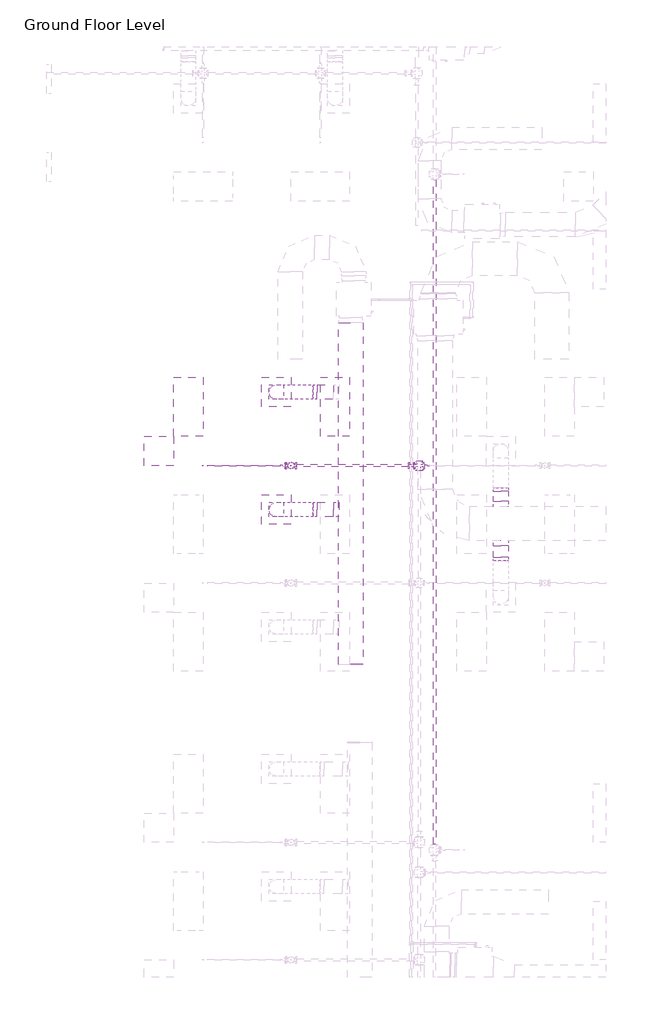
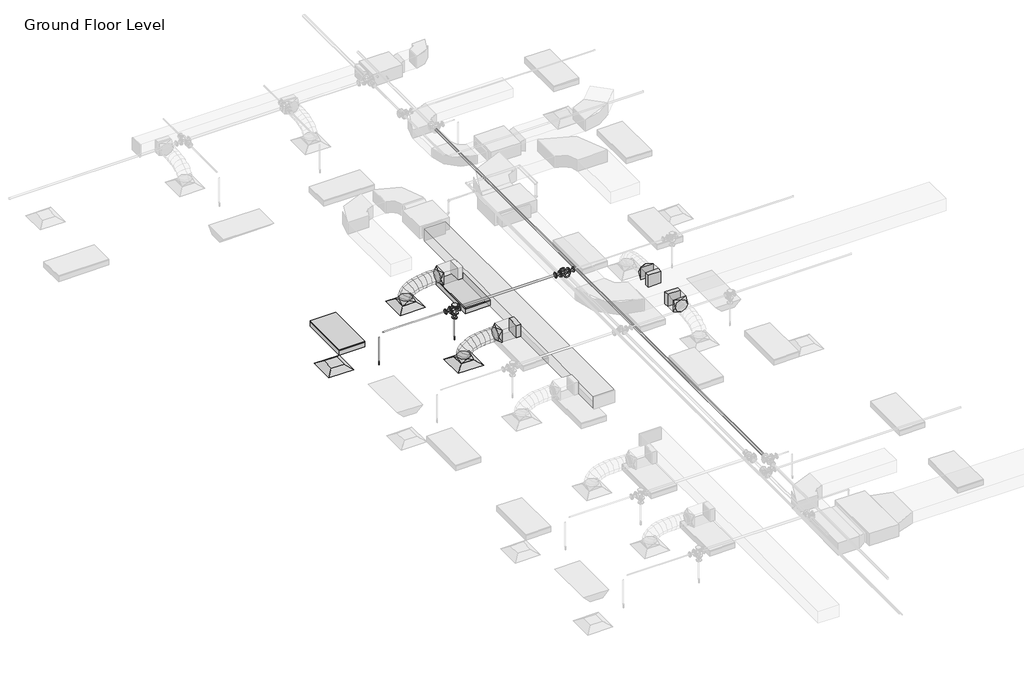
# One storey, part 30 of 68: 9 duct fittings, 7 duct segments, 6 pipe fittings, 5 pipe segments, 3 air terminals, 2 fire suppression terminals, 2 light fixtures.
"""IFC4 building model written with IfcOpenShell, lengths in millimetres."""

from ifc_helpers import new_model, si_unit, point, frame, frame_2d, origin, place, context, project, spatial, polyline, circle_curve, ellipse_curve, trimmed, segment, composite_curve, outline, extrude, transform, mapped, element, save
from ifc_brep_helpers import plane_surface, cylinder_surface, advanced_brep
from components import m_return_diffuser_600_x_600_face_300_x_300_connection_ff221211, m_rectangular_takeoff_standard_cb0ccb98, m_rectangular_takeoff_standard_2be5eba1, m_rectangular_to_round_transition_angle_45_degree_641efff0, m_sprinkler_dry_pendent_hosted_15_mm_dry_pendent_9bda8e11, m_troffer_light_parabolic_rectangular1_0600x1200mm_4_lamp_86473d4a, m_reducer_flanged_cs_class_150_standard_83138b42, m_reducer_flanged_cs_class_150_standard_dc68ad9d, m_reducer_flanged_cs_class_150_standard_678fb8eb, m_reducer_flanged_cs_class_150_standard_84a20e65, m_tee_round_base_flanged_cs_class_150_standard_9c9133d0, m_tee_round_base_flanged_cs_class_150_standard_ab36f383

model = new_model("IFC4")

# Units and contexts
model_context = context("Model", 3, world=origin())
ifc_project = project(units=[si_unit("LENGTHUNIT", "METRE", prefix="MILLI")], contexts=[model_context])

# Site, building, storey
site = spatial("IfcSite", under=ifc_project)
building = spatial("IfcBuilding", under=site)
storey = spatial("IfcBuildingStorey", under=building, Name="Ground Floor Level", Elevation=900.0)

# Air terminals
placement = place(None, origin())
m_return_diffuser_600_x_600_face_300_x_300_connection_shape = m_return_diffuser_600_x_600_face_300_x_300_connection_ff221211(model_context)
element("IfcAirTerminal", 1, ObjectType="M_Return Diffuser : 600 x 600 Face 300 x 300 Connection", at=placement, inside=storey, context=model_context, shape_type="MappedRepresentation", body=[
    mapped(m_return_diffuser_600_x_600_face_300_x_300_connection_shape, transform((362.7672395, -10664.7846466, 3650.0), x_axis=(1.0, 0.0, 0.0), y_axis=(0.0, 1.0, 0.0), z_axis=(0.0, 0.0, 1.0))),
])
element("IfcAirTerminal", 2, ObjectType="M_Supply Diffuser : 600 x 600 Face 300 x 300 Connection", at=placement, inside=storey, context=model_context, shape_type="MappedRepresentation", body=[
    mapped(m_return_diffuser_600_x_600_face_300_x_300_connection_shape, transform((2762.7672395, -9464.7846466, 3650.0), x_axis=(1.0, 0.0, 0.0), y_axis=(0.0, 1.0, 0.0), z_axis=(0.0, 0.0, 1.0))),
])
element("IfcAirTerminal", 3, ObjectType="M_Supply Diffuser : 600 x 600 Face 300 x 300 Connection", at=placement, inside=storey, context=model_context, shape_type="MappedRepresentation", body=[
    mapped(m_return_diffuser_600_x_600_face_300_x_300_connection_shape, transform((2762.7672395, -11864.7846466, 3650.0), x_axis=(1.0, 0.0, 0.0), y_axis=(0.0, 1.0, 0.0), z_axis=(0.0, 0.0, 1.0))),
])

# Duct fittings
m_rectangular_takeoff_standard_shape = m_rectangular_takeoff_standard_cb0ccb98(model_context)
element("IfcDuctFitting", 4, ObjectType="M_Rectangular Takeoff : Standard", at=placement, inside=storey, context=model_context, shape_type="MappedRepresentation", body=[
    mapped(m_rectangular_takeoff_standard_shape, transform((7352.7672395, -11799.3358641, 4099.9875), x_axis=(0.0, 1.0, 0.0), y_axis=(1.0, 0.0, 0.0), z_axis=(0.0, 0.0, -1.0))),
])
m_rectangular_takeoff_standard_2_shape = m_rectangular_takeoff_standard_2be5eba1(model_context)
element("IfcDuctFitting", 5, ObjectType="M_Rectangular Takeoff : Standard", at=placement, inside=storey, context=model_context, shape_type="MappedRepresentation", body=[
    mapped(m_rectangular_takeoff_standard_2_shape, transform((7352.7672395, -12499.3358641, 4099.9875), x_axis=(0.0, -1.0, 0.0), y_axis=(-1.0, 0.0, 0.0), z_axis=(0.0, 0.0, -1.0))),
])
element("IfcDuctFitting", 6, ObjectType="M_Rectangular Takeoff : Standard", at=placement, inside=storey, context=model_context, shape_type="MappedRepresentation", body=[
    mapped(m_rectangular_takeoff_standard_2_shape, transform((4032.1581888, -11864.7846466, 4099.9931113), x_axis=(-1.0, 0.0, 0.0), y_axis=(0.0, 1.0, 0.0), z_axis=(0.0, 0.0, -1.0))),
])
m_rectangular_to_round_transition_angle_45_degree_shape = m_rectangular_to_round_transition_angle_45_degree_641efff0(model_context)
element("IfcDuctFitting", 7, ObjectType="M_Rectangular to Round Transition - Angle : 45 Degree", at=placement, inside=storey, context=model_context, shape_type="MappedRepresentation", body=[
    mapped(m_rectangular_to_round_transition_angle_45_degree_shape, transform((2762.7672395, -9464.7846466, 3751.6), x_axis=(0.0, 0.0, 1.0), y_axis=(-1.0, 0.0, 0.0), z_axis=(0.0, -1.0, 0.0))),
])
element("IfcDuctFitting", 8, ObjectType="M_Rectangular to Round Transition - Angle : 45 Degree", at=placement, inside=storey, context=model_context, shape_type="MappedRepresentation", body=[
    mapped(m_rectangular_to_round_transition_angle_45_degree_shape, transform((3590.1057325, -9464.7846466, 4099.9974383), x_axis=(-1.0, 0.0, 0.0), y_axis=(0.0, -1.0, 0.0), z_axis=(0.0, 0.0, 1.0))),
])
element("IfcDuctFitting", 9, ObjectType="M_Rectangular to Round Transition - Angle : 45 Degree", at=placement, inside=storey, context=model_context, shape_type="MappedRepresentation", body=[
    mapped(m_rectangular_to_round_transition_angle_45_degree_shape, transform((2762.7672395, -11864.7846466, 3751.6), x_axis=(0.0, 0.0, 1.0), y_axis=(-1.0, 0.0, 0.0), z_axis=(0.0, -1.0, 0.0))),
])
element("IfcDuctFitting", 10, ObjectType="M_Rectangular to Round Transition - Angle : 45 Degree", at=placement, inside=storey, context=model_context, shape_type="MappedRepresentation", body=[
    mapped(m_rectangular_to_round_transition_angle_45_degree_shape, transform((3590.1100595, -11864.7846466, 4099.9931113), x_axis=(-1.0, 0.0, 0.0), y_axis=(0.0, -1.0, 0.0), z_axis=(0.0, 0.0, 1.0))),
])
element("IfcDuctFitting", 11, ObjectType="M_Rectangular to Round Transition - Angle : 45 Degree", at=placement, inside=storey, context=model_context, shape_type="MappedRepresentation", body=[
    mapped(m_rectangular_to_round_transition_angle_45_degree_shape, transform((7352.7672395, -11492.1330779, 4099.9875), x_axis=(0.0, 1.0, 0.0), y_axis=(-1.0, 0.0, 0.0), z_axis=(0.0, 0.0, 1.0))),
])
element("IfcDuctFitting", 12, ObjectType="M_Rectangular to Round Transition - Angle : 45 Degree", at=placement, inside=storey, context=model_context, shape_type="MappedRepresentation", body=[
    mapped(m_rectangular_to_round_transition_angle_45_degree_shape, transform((7352.7672395, -12837.4362153, 4099.9875), x_axis=(0.0, -1.0, 0.0), y_axis=(1.0, 0.0, 0.0), z_axis=(0.0, 0.0, 1.0))),
])

# Duct segments
element("IfcDuctSegment", 13, ObjectType="Flex - Round", at=placement, inside=storey, context=model_context, shape_type="AdvancedBrep", body=[
    advanced_brep(
    [(2912.7672395, -9464.7846466, 3826.6), (2762.7672395, -9614.7846466, 3826.6), (2612.7672395, -9464.7846466, 3826.6), (2762.7672395, -9314.7846466, 3826.6), (2912.7672395, -9464.7846466, 3832.2944653), (2762.7672395, -9614.7846466, 3857.937819), (2612.7672395, -9464.7846466, 3883.5811727), (2762.7672395, -9314.7846466, 3857.937819), (2913.5210607, -9464.7846466, 3834.4347571), (2779.7832431, -9614.7846466, 3906.2506195), (2646.0454255, -9464.7846466, 3978.066482), (2779.7832431, -9314.7846466, 3906.2506195), (2931.1727776, -9464.7846466, 3857.8014637), (2826.9673168, -9614.7846466, 3968.7111959), (2722.761856, -9464.7846466, 4079.620928), (2826.9673168, -9314.7846466, 3968.7111959), (2967.4569198, -9464.7846466, 3881.8155831), (2898.5235552, -9614.7846466, 4016.0696268), (2829.5901905, -9464.7846466, 4150.3236705), (2898.5235552, -9314.7846466, 4016.0696268), (3032.2160605, -9464.7846466, 3906.4914754), (2988.6560526, -9614.7846466, 4050.4138102), (2945.0960447, -9464.7846466, 4194.336145), (2988.6560526, -9314.7846466, 4050.4138102), (3118.1291117, -9464.7846466, 3926.0410022), (3091.5689036, -9614.7846466, 4073.8316439), (3065.0086955, -9464.7846466, 4221.6222855), (3091.5689036, -9314.7846466, 4073.8316439), (3216.6164827, -9464.7846466, 3939.1067008), (3201.4662026, -9614.7846466, 4088.4110257), (3186.3159225, -9464.7846466, 4237.7153505), (3201.4662026, -9314.7846466, 4088.4110257), (3320.0568882, -9464.7846466, 3946.3967129), (3312.5520441, -9614.7846466, 4096.2398535), (3305.0472001, -9464.7846466, 4246.0829941), (3312.5520441, -9314.7846466, 4096.2398535), (3421.7217312, -9464.7846466, 3949.4197495), (3419.0305226, -9614.7846466, 4099.4060251), (3416.339314, -9464.7846466, 4249.3923007), (3419.0305226, -9314.7846466, 4099.4060251), (3516.0290748, -9464.7846466, 3950.0002802), (3515.1057325, -9614.7846466, 4099.9974383), (3514.1823902, -9464.7846466, 4249.9945964), (3515.1057325, -9314.7846466, 4099.9974383)],
    [
        (0, 1, circle_curve(frame((2762.7672395, -9464.7846466, 3826.6), z_axis=(0.0, 0.0, -1.0), x_axis=(1.0, 0.0, 0.0)), 150.0)),
        (1, 2, circle_curve(frame((2762.7672395, -9464.7846466, 3826.6), z_axis=(0.0, 0.0, -1.0), x_axis=(1.0, 0.0, 0.0)), 150.0)),
        (2, 3, circle_curve(frame((2762.7672395, -9464.7846466, 3826.6), z_axis=(0.0, 0.0, -1.0), x_axis=(1.0, 0.0, 0.0)), 150.0)),
        (3, 0, circle_curve(frame((2762.7672395, -9464.7846466, 3826.6), z_axis=(0.0, 0.0, -1.0), x_axis=(1.0, 0.0, 0.0)), 150.0)),
        (0, 4),
        (4, 5, ellipse_curve(frame((2762.7672395, -9464.7846466, 3857.937819), z_axis=(-0.1685109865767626, 0.0, -0.9856997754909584), x_axis=(0.9856997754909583, 0.0, -0.16851098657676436)), 152.1761532, 150.0)),
        (5, 1),
        (5, 6, ellipse_curve(frame((2762.7672395, -9464.7846466, 3857.937819), z_axis=(-0.1685109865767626, 0.0, -0.9856997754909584), x_axis=(0.9856997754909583, 0.0, -0.16851098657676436)), 152.1761532, 150.0)),
        (6, 2),
        (6, 7, ellipse_curve(frame((2762.7672395, -9464.7846466, 3857.937819), z_axis=(-0.1685109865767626, 0.0, -0.9856997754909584), x_axis=(0.9856997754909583, 0.0, -0.16851098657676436)), 152.1761532, 150.0)),
        (7, 3),
        (7, 4, ellipse_curve(frame((2762.7672395, -9464.7846466, 3857.937819), z_axis=(-0.1685109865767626, 0.0, -0.9856997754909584), x_axis=(0.9856997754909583, 0.0, -0.16851098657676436)), 152.1761532, 150.0)),
        (4, 8),
        (8, 9, ellipse_curve(frame((2779.7832431, -9464.7846466, 3906.2506195), z_axis=(-0.47309443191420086, 0.0, -0.8810117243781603), x_axis=(0.8810117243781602, 0.0, -0.4730944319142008)), 151.80027, 150.0)),
        (9, 5),
        (9, 10, ellipse_curve(frame((2779.7832431, -9464.7846466, 3906.2506195), z_axis=(-0.47309443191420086, 0.0, -0.8810117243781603), x_axis=(0.8810117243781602, 0.0, -0.4730944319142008)), 151.80027, 150.0)),
        (10, 6),
        (10, 11, ellipse_curve(frame((2779.7832431, -9464.7846466, 3906.2506195), z_axis=(-0.47309443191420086, 0.0, -0.8810117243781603), x_axis=(0.8810117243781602, 0.0, -0.4730944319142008)), 151.80027, 150.0)),
        (11, 7),
        (11, 8, ellipse_curve(frame((2779.7832431, -9464.7846466, 3906.2506195), z_axis=(-0.47309443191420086, 0.0, -0.8810117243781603), x_axis=(0.8810117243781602, 0.0, -0.4730944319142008)), 151.80027, 150.0)),
        (8, 12),
        (12, 13, ellipse_curve(frame((2826.9673168, -9464.7846466, 3968.7111959), z_axis=(-0.7287905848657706, 0.0, -0.6847366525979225), x_axis=(0.6847366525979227, 0.0, -0.7287905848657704)), 152.1832669, 150.0)),
        (13, 9),
        (13, 14, ellipse_curve(frame((2826.9673168, -9464.7846466, 3968.7111959), z_axis=(-0.7287905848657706, 0.0, -0.6847366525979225), x_axis=(0.6847366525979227, 0.0, -0.7287905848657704)), 152.1832669, 150.0)),
        (14, 10),
        (14, 15, ellipse_curve(frame((2826.9673168, -9464.7846466, 3968.7111959), z_axis=(-0.7287905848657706, 0.0, -0.6847366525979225), x_axis=(0.6847366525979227, 0.0, -0.7287905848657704)), 152.1832669, 150.0)),
        (15, 11),
        (15, 12, ellipse_curve(frame((2826.9673168, -9464.7846466, 3968.7111959), z_axis=(-0.7287905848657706, 0.0, -0.6847366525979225), x_axis=(0.6847366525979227, 0.0, -0.7287905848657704)), 152.1832669, 150.0)),
        (12, 16),
        (16, 17, ellipse_curve(frame((2898.5235552, -9464.7846466, 4016.0696268), z_axis=(-0.8895882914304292, 0.0, -0.45676325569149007), x_axis=(0.45676325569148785, 0.0, -0.8895882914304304)), 150.9170535, 150.0)),
        (17, 13),
        (17, 18, ellipse_curve(frame((2898.5235552, -9464.7846466, 4016.0696268), z_axis=(-0.8895882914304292, 0.0, -0.45676325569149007), x_axis=(0.45676325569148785, 0.0, -0.8895882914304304)), 150.9170535, 150.0)),
        (18, 14),
        (18, 19, ellipse_curve(frame((2898.5235552, -9464.7846466, 4016.0696268), z_axis=(-0.8895882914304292, 0.0, -0.45676325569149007), x_axis=(0.45676325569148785, 0.0, -0.8895882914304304)), 150.9170535, 150.0)),
        (19, 15),
        (19, 16, ellipse_curve(frame((2898.5235552, -9464.7846466, 4016.0696268), z_axis=(-0.8895882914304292, 0.0, -0.45676325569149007), x_axis=(0.45676325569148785, 0.0, -0.8895882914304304)), 150.9170535, 150.0)),
        (16, 20),
        (20, 21, ellipse_curve(frame((2988.6560526, -9464.7846466, 4050.4138102), z_axis=(-0.9571218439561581, 0.0, -0.2896856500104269), x_axis=(0.28968565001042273, 0.0, -0.9571218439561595)), 150.3699197, 150.0)),
        (21, 17),
        (21, 22, ellipse_curve(frame((2988.6560526, -9464.7846466, 4050.4138102), z_axis=(-0.9571218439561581, 0.0, -0.2896856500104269), x_axis=(0.28968565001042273, 0.0, -0.9571218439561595)), 150.3699197, 150.0)),
        (22, 18),
        (22, 23, ellipse_curve(frame((2988.6560526, -9464.7846466, 4050.4138102), z_axis=(-0.9571218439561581, 0.0, -0.2896856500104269), x_axis=(0.28968565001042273, 0.0, -0.9571218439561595)), 150.3699197, 150.0)),
        (23, 19),
        (23, 20, ellipse_curve(frame((2988.6560526, -9464.7846466, 4050.4138102), z_axis=(-0.9571218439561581, 0.0, -0.2896856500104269), x_axis=(0.28968565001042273, 0.0, -0.9571218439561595)), 150.3699197, 150.0)),
        (20, 24),
        (24, 25, ellipse_curve(frame((3091.5689036, -9464.7846466, 4073.8316439), z_axis=(-0.9842321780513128, 0.0, -0.1768813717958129), x_axis=(0.17688137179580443, 0.0, -0.9842321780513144)), 150.1583111, 150.0)),
        (25, 21),
        (25, 26, ellipse_curve(frame((3091.5689036, -9464.7846466, 4073.8316439), z_axis=(-0.9842321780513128, 0.0, -0.1768813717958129), x_axis=(0.17688137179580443, 0.0, -0.9842321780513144)), 150.1583111, 150.0)),
        (26, 22),
        (26, 27, ellipse_curve(frame((3091.5689036, -9464.7846466, 4073.8316439), z_axis=(-0.9842321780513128, 0.0, -0.1768813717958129), x_axis=(0.17688137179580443, 0.0, -0.9842321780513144)), 150.1583111, 150.0)),
        (27, 23),
        (27, 24, ellipse_curve(frame((3091.5689036, -9464.7846466, 4073.8316439), z_axis=(-0.9842321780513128, 0.0, -0.1768813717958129), x_axis=(0.17688137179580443, 0.0, -0.9842321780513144)), 150.1583111, 150.0)),
        (24, 28),
        (28, 29, ellipse_curve(frame((3201.4662026, -9464.7846466, 4088.4110257), z_axis=(-0.994891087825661, 0.0, -0.10095406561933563), x_axis=(0.10095406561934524, 0.0, -0.99489108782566)), 150.0710245, 150.0)),
        (29, 25),
        (29, 30, ellipse_curve(frame((3201.4662026, -9464.7846466, 4088.4110257), z_axis=(-0.994891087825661, 0.0, -0.10095406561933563), x_axis=(0.10095406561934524, 0.0, -0.99489108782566)), 150.0710245, 150.0)),
        (30, 26),
        (30, 31, ellipse_curve(frame((3201.4662026, -9464.7846466, 4088.4110257), z_axis=(-0.994891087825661, 0.0, -0.10095406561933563), x_axis=(0.10095406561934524, 0.0, -0.99489108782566)), 150.0710245, 150.0)),
        (31, 27),
        (31, 28, ellipse_curve(frame((3201.4662026, -9464.7846466, 4088.4110257), z_axis=(-0.994891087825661, 0.0, -0.10095406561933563), x_axis=(0.10095406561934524, 0.0, -0.99489108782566)), 150.0710245, 150.0)),
        (28, 32),
        (32, 33, ellipse_curve(frame((3312.5520441, -9464.7846466, 4096.2398535), z_axis=(-0.9987481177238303, 0.0, -0.05002196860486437), x_axis=(0.05002196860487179, 0.0, -0.9987481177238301)), 150.0309617, 150.0)),
        (33, 29),
        (33, 34, ellipse_curve(frame((3312.5520441, -9464.7846466, 4096.2398535), z_axis=(-0.9987481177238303, 0.0, -0.05002196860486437), x_axis=(0.05002196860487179, 0.0, -0.9987481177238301)), 150.0309617, 150.0)),
        (34, 30),
        (34, 35, ellipse_curve(frame((3312.5520441, -9464.7846466, 4096.2398535), z_axis=(-0.9987481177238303, 0.0, -0.05002196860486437), x_axis=(0.05002196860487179, 0.0, -0.9987481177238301)), 150.0309617, 150.0)),
        (35, 31),
        (35, 32, ellipse_curve(frame((3312.5520441, -9464.7846466, 4096.2398535), z_axis=(-0.9987481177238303, 0.0, -0.05002196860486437), x_axis=(0.05002196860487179, 0.0, -0.9987481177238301)), 150.0309617, 150.0)),
        (32, 36),
        (36, 37, ellipse_curve(frame((3419.0305226, -9464.7846466, 4099.4060251), z_axis=(-0.9998390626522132, 0.0, -0.01794014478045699), x_axis=(0.017940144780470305, 0.0, -0.9998390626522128)), 150.0104179, 150.0)),
        (37, 33),
        (37, 38, ellipse_curve(frame((3419.0305226, -9464.7846466, 4099.4060251), z_axis=(-0.9998390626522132, 0.0, -0.01794014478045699), x_axis=(0.017940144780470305, 0.0, -0.9998390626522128)), 150.0104179, 150.0)),
        (38, 34),
        (38, 39, ellipse_curve(frame((3419.0305226, -9464.7846466, 4099.4060251), z_axis=(-0.9998390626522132, 0.0, -0.01794014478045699), x_axis=(0.017940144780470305, 0.0, -0.9998390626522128)), 150.0104179, 150.0)),
        (39, 35),
        (39, 36, ellipse_curve(frame((3419.0305226, -9464.7846466, 4099.4060251), z_axis=(-0.9998390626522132, 0.0, -0.01794014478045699), x_axis=(0.017940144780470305, 0.0, -0.9998390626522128)), 150.0104179, 150.0)),
        (36, 40),
        (40, 41, circle_curve(frame((3515.1057325, -9464.7846466, 4099.9974383), z_axis=(-0.9999810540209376, 0.0, -0.006155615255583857), x_axis=(0.006155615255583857, 0.0, -0.9999810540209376)), 150.0)),
        (41, 37),
        (41, 42, circle_curve(frame((3515.1057325, -9464.7846466, 4099.9974383), z_axis=(-0.9999810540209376, 0.0, -0.006155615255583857), x_axis=(0.006155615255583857, 0.0, -0.9999810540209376)), 150.0)),
        (42, 38),
        (42, 43, circle_curve(frame((3515.1057325, -9464.7846466, 4099.9974383), z_axis=(-0.9999810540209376, 0.0, -0.006155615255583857), x_axis=(0.006155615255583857, 0.0, -0.9999810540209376)), 150.0)),
        (43, 39),
        (43, 40, circle_curve(frame((3515.1057325, -9464.7846466, 4099.9974383), z_axis=(-0.9999810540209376, 0.0, -0.006155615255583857), x_axis=(0.006155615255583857, 0.0, -0.9999810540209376)), 150.0)),
    ],
    [
        plane_surface(frame((2762.7672395, -9614.7846466, 3826.6), z_axis=(0.0, 0.0, -1.0), x_axis=(1.0, 0.0, 0.0))),
        cylinder_surface(frame((2762.7672395, -9464.7846466, 3826.6), z_axis=(0.0, 0.0, -1.0), x_axis=(1.0, 0.0, 0.0)), 150.0),
        cylinder_surface(frame((2762.7672395, -9464.7846466, 3857.937819), z_axis=(-0.3322024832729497, 0.0, -0.9432080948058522), x_axis=(0.9432080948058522, 0.0, -0.3322024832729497)), 150.0),
        cylinder_surface(frame((2779.7832431, -9464.7846466, 3906.2506195), z_axis=(-0.6027650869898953, 0.0, -0.7979186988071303), x_axis=(0.7979186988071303, 0.0, -0.6027650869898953)), 150.0),
        cylinder_surface(frame((2826.9673168, -9464.7846466, 3968.7111959), z_axis=(-0.8339051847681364, 0.0, -0.5519077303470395), x_axis=(0.5519077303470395, 0.0, -0.8339051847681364)), 150.0),
        cylinder_surface(frame((2898.5235552, -9464.7846466, 4016.0696268), z_axis=(-0.9344601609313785, 0.0, -0.3560677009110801), x_axis=(0.3560677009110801, 0.0, -0.9344601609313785)), 150.0),
        cylinder_surface(frame((2988.6560526, -9464.7846466, 4050.4138102), z_axis=(-0.9750743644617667, 0.0, -0.22187830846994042), x_axis=(0.22187830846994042, 0.0, -0.9750743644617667)), 150.0),
        cylinder_surface(frame((3091.5689036, -9464.7846466, 4073.8316439), z_axis=(-0.9913146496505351, 0.0, -0.13151146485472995), x_axis=(0.13151146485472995, 0.0, -0.9913146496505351)), 150.0),
        cylinder_surface(frame((3201.4662026, -9464.7846466, 4088.4110257), z_axis=(-0.99752581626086, 0.0, -0.07030110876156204), x_axis=(0.07030110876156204, 0.0, -0.99752581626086)), 150.0),
        cylinder_surface(frame((3312.5520441, -9464.7846466, 4096.2398535), z_axis=(-0.9995581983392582, 0.0, -0.029722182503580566), x_axis=(0.029722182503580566, 0.0, -0.9995581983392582)), 150.0),
        cylinder_surface(frame((3419.0305226, -9464.7846466, 4099.4060251), z_axis=(-0.9999810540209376, 0.0, -0.006155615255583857), x_axis=(0.006155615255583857, 0.0, -0.9999810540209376)), 150.0),
        plane_surface(frame((3515.1057325, -9614.7846466, 4099.9974383), z_axis=(0.9999810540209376, 0.0, 0.006155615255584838), x_axis=(0.006155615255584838, 0.0, -0.9999810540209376))),
    ],
    [
        (0, [[1, 2, 3, 4]]),
        (1, [[-1, 5, 6, 7]]),
        (1, [[-2, -7, 8, 9]]),
        (1, [[-3, -9, 10, 11]]),
        (1, [[-4, -11, 12, -5]]),
        (2, [[-6, 13, 14, 15]]),
        (2, [[-8, -15, 16, 17]]),
        (2, [[-10, -17, 18, 19]]),
        (2, [[-12, -19, 20, -13]]),
        (3, [[-14, 21, 22, 23]]),
        (3, [[-16, -23, 24, 25]]),
        (3, [[-18, -25, 26, 27]]),
        (3, [[-20, -27, 28, -21]]),
        (4, [[-22, 29, 30, 31]]),
        (4, [[-24, -31, 32, 33]]),
        (4, [[-26, -33, 34, 35]]),
        (4, [[-28, -35, 36, -29]]),
        (5, [[-30, 37, 38, 39]]),
        (5, [[-32, -39, 40, 41]]),
        (5, [[-34, -41, 42, 43]]),
        (5, [[-36, -43, 44, -37]]),
        (6, [[-38, 45, 46, 47]]),
        (6, [[-40, -47, 48, 49]]),
        (6, [[-42, -49, 50, 51]]),
        (6, [[-44, -51, 52, -45]]),
        (7, [[-46, 53, 54, 55]]),
        (7, [[-48, -55, 56, 57]]),
        (7, [[-50, -57, 58, 59]]),
        (7, [[-52, -59, 60, -53]]),
        (8, [[-54, 61, 62, 63]]),
        (8, [[-56, -63, 64, 65]]),
        (8, [[-58, -65, 66, 67]]),
        (8, [[-60, -67, 68, -61]]),
        (9, [[-62, 69, 70, 71]]),
        (9, [[-64, -71, 72, 73]]),
        (9, [[-66, -73, 74, 75]]),
        (9, [[-68, -75, 76, -69]]),
        (10, [[-70, 77, 78, 79]]),
        (10, [[-72, -79, 80, 81]]),
        (10, [[-74, -81, 82, 83]]),
        (10, [[-76, -83, 84, -77]]),
        (11, [[-84, -82, -80, -78]]),
    ],
),
])
element("IfcDuctSegment", 14, ObjectType="Flex - Round", at=placement, inside=storey, context=model_context, shape_type="AdvancedBrep", body=[
    advanced_brep(
    [(2912.7672395, -11864.7846466, 3826.6), (2762.7672395, -12014.7846466, 3826.6), (2612.7672395, -11864.7846466, 3826.6), (2762.7672395, -11714.7846466, 3826.6), (2912.7672395, -11864.7846466, 3832.2944249), (2762.7672395, -12014.7846466, 3857.9380006), (2612.7672395, -11864.7846466, 3883.5815763), (2762.7672395, -11714.7846466, 3857.9380006), (2913.5209081, -11864.7846466, 3834.434264), (2779.783363, -12014.7846466, 3906.2506984), (2646.045818, -11864.7846466, 3978.0671329), (2779.783363, -11714.7846466, 3906.2506984), (2931.1724836, -11864.7846466, 3857.8005181), (2826.9677634, -12014.7846466, 3968.7109978), (2722.7630433, -11864.7846466, 4079.6214776), (2826.9677634, -11714.7846466, 3968.7109978), (2967.4566828, -11864.7846466, 3881.8142389), (2898.5244852, -12014.7846466, 4016.0688885), (2829.5922876, -11864.7846466, 4150.3235382), (2898.5244852, -11714.7846466, 4016.0688885), (3032.2163051, -11864.7846466, 3906.4896423), (2988.6575729, -12014.7846466, 4050.4123609), (2945.0988407, -11864.7846466, 4194.3350795), (2988.6575729, -11714.7846466, 4050.4123609), (3118.1300698, -11864.7846466, 3926.0385497), (3091.5710711, -12014.7846466, 4073.8294054), (3065.0120723, -11864.7846466, 4221.620261), (3091.5710711, -11714.7846466, 4073.8294054), (3216.6182532, -11864.7846466, 3939.1035838), (3201.4690243, -12014.7846466, 4088.4080122), (3186.3197953, -11864.7846466, 4237.7124407), (3201.4690243, -11714.7846466, 4088.4080122), (3320.0595033, -11864.7846466, 3946.3929932), (3312.555477, -12014.7846466, 4096.2361719), (3305.0514507, -11864.7846466, 4246.0793507), (3312.555477, -11714.7846466, 4096.2361719), (3421.725202, -11864.7846466, 3949.415593), (3419.0344739, -12014.7846466, 4099.4018748), (3416.3437458, -11864.7846466, 4249.3881567), (3419.0344739, -11714.7846466, 4099.4018748), (3516.0331222, -11864.7846466, 3949.9959514), (3515.1100595, -12014.7846466, 4099.9931113), (3514.1869969, -11864.7846466, 4249.9902711), (3515.1100595, -11714.7846466, 4099.9931113)],
    [
        (0, 1, circle_curve(frame((2762.7672395, -11864.7846466, 3826.6), z_axis=(0.0, 0.0, -1.0), x_axis=(1.0, 0.0, 0.0)), 150.0)),
        (1, 2, circle_curve(frame((2762.7672395, -11864.7846466, 3826.6), z_axis=(0.0, 0.0, -1.0), x_axis=(1.0, 0.0, 0.0)), 150.0)),
        (2, 3, circle_curve(frame((2762.7672395, -11864.7846466, 3826.6), z_axis=(0.0, 0.0, -1.0), x_axis=(1.0, 0.0, 0.0)), 150.0)),
        (3, 0, circle_curve(frame((2762.7672395, -11864.7846466, 3826.6), z_axis=(0.0, 0.0, -1.0), x_axis=(1.0, 0.0, 0.0)), 150.0)),
        (0, 4),
        (4, 5, ellipse_curve(frame((2762.7672395, -11864.7846466, 3857.9380006), z_axis=(-0.1685124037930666, 0.0, -0.985699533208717), x_axis=(0.985699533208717, 0.0, -0.16851240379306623)), 152.1761906, 150.0)),
        (5, 1),
        (5, 6, ellipse_curve(frame((2762.7672395, -11864.7846466, 3857.9380006), z_axis=(-0.1685124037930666, 0.0, -0.985699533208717), x_axis=(0.985699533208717, 0.0, -0.16851240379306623)), 152.1761906, 150.0)),
        (6, 2),
        (6, 7, ellipse_curve(frame((2762.7672395, -11864.7846466, 3857.9380006), z_axis=(-0.1685124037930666, 0.0, -0.985699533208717), x_axis=(0.985699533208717, 0.0, -0.16851240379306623)), 152.1761906, 150.0)),
        (7, 3),
        (7, 4, ellipse_curve(frame((2762.7672395, -11864.7846466, 3857.9380006), z_axis=(-0.1685124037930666, 0.0, -0.985699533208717), x_axis=(0.985699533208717, 0.0, -0.16851240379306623)), 152.1761906, 150.0)),
        (4, 8),
        (8, 9, ellipse_curve(frame((2779.783363, -11864.7846466, 3906.2506984), z_axis=(-0.47309810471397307, 0.0, -0.8810097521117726), x_axis=(0.8810097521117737, 0.0, -0.47309810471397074)), 151.8003005, 150.0)),
        (9, 5),
        (9, 10, ellipse_curve(frame((2779.783363, -11864.7846466, 3906.2506984), z_axis=(-0.47309810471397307, 0.0, -0.8810097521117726), x_axis=(0.8810097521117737, 0.0, -0.47309810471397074)), 151.8003005, 150.0)),
        (10, 6),
        (10, 11, ellipse_curve(frame((2779.783363, -11864.7846466, 3906.2506984), z_axis=(-0.47309810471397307, 0.0, -0.8810097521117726), x_axis=(0.8810097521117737, 0.0, -0.47309810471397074)), 151.8003005, 150.0)),
        (11, 7),
        (11, 8, ellipse_curve(frame((2779.783363, -11864.7846466, 3906.2506984), z_axis=(-0.47309810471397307, 0.0, -0.8810097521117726), x_axis=(0.8810097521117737, 0.0, -0.47309810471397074)), 151.8003005, 150.0)),
        (8, 12),
        (12, 13, ellipse_curve(frame((2826.9677634, -11864.7846466, 3968.7109978), z_axis=(-0.7287953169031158, 0.0, -0.684731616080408), x_axis=(0.6847316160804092, 0.0, -0.7287953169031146)), 152.1833047, 150.0)),
        (13, 9),
        (13, 14, ellipse_curve(frame((2826.9677634, -11864.7846466, 3968.7109978), z_axis=(-0.7287953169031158, 0.0, -0.684731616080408), x_axis=(0.6847316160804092, 0.0, -0.7287953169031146)), 152.1833047, 150.0)),
        (14, 10),
        (14, 15, ellipse_curve(frame((2826.9677634, -11864.7846466, 3968.7109978), z_axis=(-0.7287953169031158, 0.0, -0.684731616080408), x_axis=(0.6847316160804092, 0.0, -0.7287953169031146)), 152.1833047, 150.0)),
        (15, 11),
        (15, 12, ellipse_curve(frame((2826.9677634, -11864.7846466, 3968.7109978), z_axis=(-0.7287953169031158, 0.0, -0.684731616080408), x_axis=(0.6847316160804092, 0.0, -0.7287953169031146)), 152.1833047, 150.0)),
        (12, 16),
        (16, 17, ellipse_curve(frame((2898.5244852, -11864.7846466, 4016.0688885), z_axis=(-0.8895922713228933, 0.0, -0.45675550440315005), x_axis=(0.4567555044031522, 0.0, -0.8895922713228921)), 150.9170594, 150.0)),
        (17, 13),
        (17, 18, ellipse_curve(frame((2898.5244852, -11864.7846466, 4016.0688885), z_axis=(-0.8895922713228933, 0.0, -0.45675550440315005), x_axis=(0.4567555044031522, 0.0, -0.8895922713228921)), 150.9170594, 150.0)),
        (18, 14),
        (18, 19, ellipse_curve(frame((2898.5244852, -11864.7846466, 4016.0688885), z_axis=(-0.8895922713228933, 0.0, -0.45675550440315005), x_axis=(0.4567555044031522, 0.0, -0.8895922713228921)), 150.9170594, 150.0)),
        (19, 15),
        (19, 16, ellipse_curve(frame((2898.5244852, -11864.7846466, 4016.0688885), z_axis=(-0.8895922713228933, 0.0, -0.45675550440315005), x_axis=(0.4567555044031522, 0.0, -0.8895922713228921)), 150.9170594, 150.0)),
        (16, 20),
        (20, 21, ellipse_curve(frame((2988.6575729, -11864.7846466, 4050.4123609), z_axis=(-0.957124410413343, 0.0, -0.289677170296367), x_axis=(0.28967717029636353, 0.0, -0.9571244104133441)), 150.3699175, 150.0)),
        (21, 17),
        (21, 22, ellipse_curve(frame((2988.6575729, -11864.7846466, 4050.4123609), z_axis=(-0.957124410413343, 0.0, -0.289677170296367), x_axis=(0.28967717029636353, 0.0, -0.9571244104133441)), 150.3699175, 150.0)),
        (22, 18),
        (22, 23, ellipse_curve(frame((2988.6575729, -11864.7846466, 4050.4123609), z_axis=(-0.957124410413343, 0.0, -0.289677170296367), x_axis=(0.28967717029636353, 0.0, -0.9571244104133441)), 150.3699175, 150.0)),
        (23, 19),
        (23, 20, ellipse_curve(frame((2988.6575729, -11864.7846466, 4050.4123609), z_axis=(-0.957124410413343, 0.0, -0.289677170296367), x_axis=(0.28967717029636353, 0.0, -0.9571244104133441)), 150.3699175, 150.0)),
        (20, 24),
        (24, 25, ellipse_curve(frame((3091.5710711, -11864.7846466, 4073.8294054), z_axis=(-0.9842336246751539, 0.0, -0.1768733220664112), x_axis=(0.17687332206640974, 0.0, -0.9842336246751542)), 150.1583079, 150.0)),
        (25, 21),
        (25, 26, ellipse_curve(frame((3091.5710711, -11864.7846466, 4073.8294054), z_axis=(-0.9842336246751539, 0.0, -0.1768733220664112), x_axis=(0.17687332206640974, 0.0, -0.9842336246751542)), 150.1583079, 150.0)),
        (26, 22),
        (26, 27, ellipse_curve(frame((3091.5710711, -11864.7846466, 4073.8294054), z_axis=(-0.9842336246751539, 0.0, -0.1768733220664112), x_axis=(0.17687332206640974, 0.0, -0.9842336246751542)), 150.1583079, 150.0)),
        (27, 23),
        (27, 24, ellipse_curve(frame((3091.5710711, -11864.7846466, 4073.8294054), z_axis=(-0.9842336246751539, 0.0, -0.1768733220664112), x_axis=(0.17687332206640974, 0.0, -0.9842336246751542)), 150.1583079, 150.0)),
        (24, 28),
        (28, 29, ellipse_curve(frame((3201.4690243, -11864.7846466, 4088.4080122), z_axis=(-0.9948917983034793, 0.0, -0.10094706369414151), x_axis=(0.10094706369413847, 0.0, -0.9948917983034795)), 150.0710214, 150.0)),
        (29, 25),
        (29, 30, ellipse_curve(frame((3201.4690243, -11864.7846466, 4088.4080122), z_axis=(-0.9948917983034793, 0.0, -0.10094706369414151), x_axis=(0.10094706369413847, 0.0, -0.9948917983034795)), 150.0710214, 150.0)),
        (30, 26),
        (30, 31, ellipse_curve(frame((3201.4690243, -11864.7846466, 4088.4080122), z_axis=(-0.9948917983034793, 0.0, -0.10094706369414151), x_axis=(0.10094706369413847, 0.0, -0.9948917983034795)), 150.0710214, 150.0)),
        (31, 27),
        (31, 28, ellipse_curve(frame((3201.4690243, -11864.7846466, 4088.4080122), z_axis=(-0.9948917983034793, 0.0, -0.10094706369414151), x_axis=(0.10094706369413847, 0.0, -0.9948917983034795)), 150.0710214, 150.0)),
        (28, 32),
        (32, 33, ellipse_curve(frame((3312.555477, -11864.7846466, 4096.2361719), z_axis=(-0.99874839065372, 0.0, -0.050016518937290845), x_axis=(0.050016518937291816, 0.0, -0.99874839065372)), 150.0309589, 150.0)),
        (33, 29),
        (33, 34, ellipse_curve(frame((3312.555477, -11864.7846466, 4096.2361719), z_axis=(-0.99874839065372, 0.0, -0.050016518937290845), x_axis=(0.050016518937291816, 0.0, -0.99874839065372)), 150.0309589, 150.0)),
        (34, 30),
        (34, 35, ellipse_curve(frame((3312.555477, -11864.7846466, 4096.2361719), z_axis=(-0.99874839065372, 0.0, -0.050016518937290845), x_axis=(0.050016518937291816, 0.0, -0.99874839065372)), 150.0309589, 150.0)),
        (35, 31),
        (35, 32, ellipse_curve(frame((3312.555477, -11864.7846466, 4096.2361719), z_axis=(-0.99874839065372, 0.0, -0.050016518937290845), x_axis=(0.050016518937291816, 0.0, -0.99874839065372)), 150.0309589, 150.0)),
        (32, 36),
        (36, 37, ellipse_curve(frame((3419.0344739, -11864.7846466, 4099.4018748), z_axis=(-0.999839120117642, 0.0, -0.017936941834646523), x_axis=(0.017936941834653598, 1.819106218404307e-12, -0.9998391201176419)), 150.0104155, 150.0)),
        (37, 33),
        (37, 38, ellipse_curve(frame((3419.0344739, -11864.7846466, 4099.4018748), z_axis=(-0.999839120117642, 0.0, -0.017936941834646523), x_axis=(0.017936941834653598, 1.819106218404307e-12, -0.9998391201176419)), 150.0104155, 150.0)),
        (38, 34),
        (38, 39, ellipse_curve(frame((3419.0344739, -11864.7846466, 4099.4018748), z_axis=(-0.999839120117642, 0.0, -0.017936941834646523), x_axis=(0.017936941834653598, 1.819106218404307e-12, -0.9998391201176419)), 150.0104155, 150.0)),
        (39, 35),
        (39, 36, ellipse_curve(frame((3419.0344739, -11864.7846466, 4099.4018748), z_axis=(-0.999839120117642, 0.0, -0.017936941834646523), x_axis=(0.017936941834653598, 1.819106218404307e-12, -0.9998391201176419)), 150.0104155, 150.0)),
        (36, 40),
        (40, 41, circle_curve(frame((3515.1100595, -11864.7846466, 4099.9931113), z_axis=(-0.9999810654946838, 0.0, -0.006153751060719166), x_axis=(0.006153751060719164, 0.0, -0.9999810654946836)), 150.0)),
        (41, 37),
        (41, 42, circle_curve(frame((3515.1100595, -11864.7846466, 4099.9931113), z_axis=(-0.9999810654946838, 0.0, -0.006153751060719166), x_axis=(0.006153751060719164, 0.0, -0.9999810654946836)), 150.0)),
        (42, 38),
        (42, 43, circle_curve(frame((3515.1100595, -11864.7846466, 4099.9931113), z_axis=(-0.9999810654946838, 0.0, -0.006153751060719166), x_axis=(0.006153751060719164, 0.0, -0.9999810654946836)), 150.0)),
        (43, 39),
        (43, 40, circle_curve(frame((3515.1100595, -11864.7846466, 4099.9931113), z_axis=(-0.9999810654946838, 0.0, -0.006153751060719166), x_axis=(0.006153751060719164, 0.0, -0.9999810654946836)), 150.0)),
    ],
    [
        plane_surface(frame((2762.7672395, -12014.7846466, 3826.6), z_axis=(0.0, 0.0, -1.0), x_axis=(1.0, 0.0, 0.0))),
        cylinder_surface(frame((2762.7672395, -11864.7846466, 3826.6), z_axis=(0.0, 0.0, -1.0), x_axis=(1.0, 0.0, 0.0)), 150.0),
        cylinder_surface(frame((2762.7672395, -11864.7846466, 3857.9380006), z_axis=(-0.33220519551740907, 0.0, -0.943207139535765), x_axis=(0.943207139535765, 0.0, -0.33220519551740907)), 150.0),
        cylinder_surface(frame((2779.783363, -11864.7846466, 3906.2506984), z_axis=(-0.602769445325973, 0.0, -0.7979154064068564), x_axis=(0.7979154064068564, 0.0, -0.602769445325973)), 150.0),
        cylinder_surface(frame((2826.9677634, -11864.7846466, 3968.7109978), z_axis=(-0.8339097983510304, 0.0, -0.55190075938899), x_axis=(0.55190075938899, 0.0, -0.8339097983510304)), 150.0),
        cylinder_surface(frame((2898.5244852, -11864.7846466, 4016.0688885), z_axis=(-0.9344633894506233, 0.0, -0.35605922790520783), x_axis=(0.35605922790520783, 0.0, -0.9344633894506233)), 150.0),
        cylinder_surface(frame((2988.6575729, -11864.7846466, 4050.4123609), z_axis=(-0.9750762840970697, 0.0, -0.2218698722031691), x_axis=(0.2218698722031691, 0.0, -0.9750762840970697)), 150.0),
        cylinder_surface(frame((3091.5710711, -11864.7846466, 4073.8294054), z_axis=(-0.9913156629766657, 0.0, -0.13150382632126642), x_axis=(0.13150382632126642, 0.0, -0.9913156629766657)), 150.0),
        cylinder_surface(frame((3201.4690243, -11864.7846466, 4088.4080122), z_axis=(-0.9975262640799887, 0.0, -0.07029475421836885), x_axis=(0.07029475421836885, 0.0, -0.9975262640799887)), 150.0),
        cylinder_surface(frame((3312.555477, -11864.7846466, 4096.2361719), z_axis=(-0.9995583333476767, 0.0, -0.029717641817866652), x_axis=(0.029717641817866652, 0.0, -0.9995583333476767)), 150.0),
        cylinder_surface(frame((3419.0344739, -11864.7846466, 4099.4018748), z_axis=(-0.9999810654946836, 0.0, -0.006153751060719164), x_axis=(0.006153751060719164, 0.0, -0.9999810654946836)), 150.0),
        plane_surface(frame((3515.1100595, -12014.7846466, 4099.9931113), z_axis=(0.9999810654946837, 0.0, 0.006153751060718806), x_axis=(0.006153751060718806, -3.666400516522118e-12, -0.9999810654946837))),
    ],
    [
        (0, [[1, 2, 3, 4]]),
        (1, [[-1, 5, 6, 7]]),
        (1, [[-2, -7, 8, 9]]),
        (1, [[-3, -9, 10, 11]]),
        (1, [[-4, -11, 12, -5]]),
        (2, [[-6, 13, 14, 15]]),
        (2, [[-8, -15, 16, 17]]),
        (2, [[-10, -17, 18, 19]]),
        (2, [[-12, -19, 20, -13]]),
        (3, [[-14, 21, 22, 23]]),
        (3, [[-16, -23, 24, 25]]),
        (3, [[-18, -25, 26, 27]]),
        (3, [[-20, -27, 28, -21]]),
        (4, [[-22, 29, 30, 31]]),
        (4, [[-24, -31, 32, 33]]),
        (4, [[-26, -33, 34, 35]]),
        (4, [[-28, -35, 36, -29]]),
        (5, [[-30, 37, 38, 39]]),
        (5, [[-32, -39, 40, 41]]),
        (5, [[-34, -41, 42, 43]]),
        (5, [[-36, -43, 44, -37]]),
        (6, [[-38, 45, 46, 47]]),
        (6, [[-40, -47, 48, 49]]),
        (6, [[-42, -49, 50, 51]]),
        (6, [[-44, -51, 52, -45]]),
        (7, [[-46, 53, 54, 55]]),
        (7, [[-48, -55, 56, 57]]),
        (7, [[-50, -57, 58, 59]]),
        (7, [[-52, -59, 60, -53]]),
        (8, [[-54, 61, 62, 63]]),
        (8, [[-56, -63, 64, 65]]),
        (8, [[-58, -65, 66, 67]]),
        (8, [[-60, -67, 68, -61]]),
        (9, [[-62, 69, 70, 71]]),
        (9, [[-64, -71, 72, 73]]),
        (9, [[-66, -73, 74, 75]]),
        (9, [[-68, -75, 76, -69]]),
        (10, [[-70, 77, 78, 79]]),
        (10, [[-72, -79, 80, 81]]),
        (10, [[-74, -81, 82, 83]]),
        (10, [[-76, -83, 84, -77]]),
        (11, [[-84, -82, -80, -78]]),
    ],
),
])
element("IfcDuctSegment", 15, ObjectType="Radius Elbows / Taps", at=placement, inside=storey, context=model_context, shape_type="SweptSolid", body=[
    extrude(outline(polyline([(0.0, -500.0), (0.0, 0.0), (6976.5207712, 0.0), (6976.5207712, -500.0), (0.0, -500.0)])), frame((4532.1581888, -8043.9355937, 3950.0), z_axis=(0.0, -1.802936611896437e-06, 0.9999999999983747), x_axis=(0.0, -0.9999999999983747, -1.802936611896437e-06)), (0.0, 0.0, 1.0), 300.0),
])
element("IfcDuctSegment", 16, ObjectType="Radius Elbows / Taps", at=placement, inside=storey, context=model_context, shape_type="SweptSolid", body=[
    extrude(outline(polyline([(7502.7672395, -11697.7358641), (7202.7672395, -11697.7358641), (7202.7672395, -11492.1330779), (7502.7672395, -11492.1330779), (7502.7672395, -11697.7358641)])), frame((0.0, 0.0, 3949.9875), z_axis=(0.0, 0.0, 1.0), x_axis=(1.0, 0.0, 0.0)), (0.0, 0.0, 1.0), 300.0),
])
element("IfcDuctSegment", 17, ObjectType="Radius Elbows / Taps", at=placement, inside=storey, context=model_context, shape_type="SweptSolid", body=[
    extrude(outline(polyline([(7202.7672395, -12600.9358641), (7502.7672395, -12600.9358641), (7502.7672395, -12837.4362153), (7202.7672395, -12837.4362153), (7202.7672395, -12600.9358641)])), frame((0.0, 0.0, 3949.9875), z_axis=(0.0, 0.0, 1.0), x_axis=(1.0, 0.0, 0.0)), (0.0, 0.0, 1.0), 300.0),
])
element("IfcDuctSegment", 18, ObjectType="Radius Elbows / Taps", at=placement, inside=storey, context=model_context, shape_type="SweptSolid", body=[
    extrude(outline(polyline([(3930.5581888, -9314.7846466), (3930.5581888, -9614.7846466), (3590.1057325, -9614.7846466), (3590.1057325, -9314.7846466), (3930.5581888, -9314.7846466)])), frame((0.0, 0.0, 3949.9974383), z_axis=(0.0, 0.0, 1.0), x_axis=(1.0, 0.0, 0.0)), (0.0, 0.0, 1.0), 300.0),
])
element("IfcDuctSegment", 19, ObjectType="Radius Elbows / Taps", at=placement, inside=storey, context=model_context, shape_type="SweptSolid", body=[
    extrude(outline(polyline([(3930.5581888, -11714.7846466), (3930.5581888, -12014.7846466), (3590.1100595, -12014.7846466), (3590.1100595, -11714.7846466), (3930.5581888, -11714.7846466)])), frame((0.0, 0.0, 3949.9931113), z_axis=(0.0, 0.0, 1.0), x_axis=(1.0, 0.0, 0.0)), (0.0, 0.0, 1.0), 300.0),
])

# Fire suppression terminals
m_sprinkler_dry_pendent_hosted_15_mm_dry_pendent_shape = m_sprinkler_dry_pendent_hosted_15_mm_dry_pendent_9bda8e11(model_context)
element("IfcFireSuppressionTerminal", 20, ObjectType="M_Sprinkler - Dry - Pendent - Hosted : 15 mm Dry Pendent", at=placement, inside=storey, context=model_context, shape_type="MappedRepresentation", body=[
    mapped(m_sprinkler_dry_pendent_hosted_15_mm_dry_pendent_shape, transform((1262.7672395, -10964.7846466, 3650.0), x_axis=(1.0, 0.0, 0.0), y_axis=(0.0, -1.0, 0.0), z_axis=(0.0, 0.0, -1.0))),
])
element("IfcFireSuppressionTerminal", 21, ObjectType="M_Sprinkler - Dry - Pendent - Hosted : 15 mm Dry Pendent", at=placement, inside=storey, context=model_context, shape_type="MappedRepresentation", body=[
    mapped(m_sprinkler_dry_pendent_hosted_15_mm_dry_pendent_shape, transform((3062.7672395, -10964.7846466, 3650.0), x_axis=(1.0, 0.0, 0.0), y_axis=(0.0, -1.0, 0.0), z_axis=(0.0, 0.0, -1.0))),
])

# Light fixtures
m_troffer_light_parabolic_rectangular1_0600x1200mm_4_lamp_shape = m_troffer_light_parabolic_rectangular1_0600x1200mm_4_lamp_86473d4a(model_context)
element("IfcLightFixture", 22, ObjectType="M_Troffer Light - Parabolic Rectangular1 : 0600x1200mm(4 Lamp) - 277V 2", at=placement, inside=storey, context=model_context, shape_type="MappedRepresentation", body=[
    mapped(m_troffer_light_parabolic_rectangular1_0600x1200mm_4_lamp_shape, transform((903.3013074, -9746.081145, 3650.0), x_axis=(0.0, 1.0, 0.0), y_axis=(-1.0, 0.0, 0.0), z_axis=(0.0, 0.0, 1.0))),
])
element("IfcLightFixture", 23, ObjectType="M_Troffer Light - Parabolic Rectangular1 : 0600x1200mm(4 Lamp) - 277V 2", at=placement, inside=storey, context=model_context, shape_type="MappedRepresentation", body=[
    mapped(m_troffer_light_parabolic_rectangular1_0600x1200mm_4_lamp_shape, transform((3903.3013074, -9746.081145, 3650.0), x_axis=(0.0, 1.0, 0.0), y_axis=(-1.0, 0.0, 0.0), z_axis=(0.0, 0.0, 1.0))),
])

# Pipe fittings
m_reducer_flanged_cs_class_150_standard_shape = m_reducer_flanged_cs_class_150_standard_83138b42(model_context)
element("IfcPipeFitting", 24, ObjectType="M_Reducer - Flanged - CS - Class 150 : Standard", at=placement, inside=storey, context=model_context, shape_type="MappedRepresentation", body=[
    mapped(m_reducer_flanged_cs_class_150_standard_shape, transform((2950.5086457, -10964.7846466, 4347.5), x_axis=(-1.0, 0.0, 0.0), y_axis=(0.0, -1.0, 0.0), z_axis=(0.0, 0.0, 1.0))),
])
m_reducer_flanged_cs_class_150_standard_2_shape = m_reducer_flanged_cs_class_150_standard_dc68ad9d(model_context)
element("IfcPipeFitting", 25, ObjectType="M_Reducer - Flanged - CS - Class 150 : Standard", at=placement, inside=storey, context=model_context, shape_type="MappedRepresentation", body=[
    mapped(m_reducer_flanged_cs_class_150_standard_2_shape, transform((3062.7672395, -10964.7846466, 4235.2414062), x_axis=(0.0, 0.0, -1.0), y_axis=(-1.0, 0.0, 0.0), z_axis=(0.0, 1.0, 0.0))),
])
m_reducer_flanged_cs_class_150_standard_3_shape = m_reducer_flanged_cs_class_150_standard_678fb8eb(model_context)
element("IfcPipeFitting", 26, ObjectType="M_Reducer - Flanged - CS - Class 150 : Standard", at=placement, inside=storey, context=model_context, shape_type="MappedRepresentation", body=[
    mapped(m_reducer_flanged_cs_class_150_standard_3_shape, transform((5790.7160832, -10964.7846466, 4347.5), x_axis=(1.0, 0.0, 0.0), y_axis=(0.0, 0.0, 1.0), z_axis=(0.0, -1.0, 0.0))),
])
m_reducer_flanged_cs_class_150_standard_4_shape = m_reducer_flanged_cs_class_150_standard_84a20e65(model_context)
element("IfcPipeFitting", 27, ObjectType="M_Reducer - Flanged - CS - Class 150 : Standard", at=placement, inside=storey, context=model_context, shape_type="MappedRepresentation", body=[
    mapped(m_reducer_flanged_cs_class_150_standard_4_shape, transform((5578.5188957, -10964.7846466, 4347.5), x_axis=(-1.0, 0.0, 0.0), y_axis=(0.0, -1.0, 0.0), z_axis=(0.0, 0.0, 1.0))),
])
m_tee_round_base_flanged_cs_class_150_standard_shape = m_tee_round_base_flanged_cs_class_150_standard_9c9133d0(model_context)
element("IfcPipeFitting", 28, ObjectType="M_Tee Round Base - Flanged - CS - Class 150 : Standard", at=placement, inside=storey, context=model_context, shape_type="MappedRepresentation", body=[
    mapped(m_tee_round_base_flanged_cs_class_150_standard_shape, transform((5684.6174894, -10964.7846466, 4347.5), x_axis=(-1.0, 0.0, 0.0), y_axis=(0.0, 1.0, 0.0), z_axis=(0.0, 0.0, -1.0))),
])
m_tee_round_base_flanged_cs_class_150_standard_2_shape = m_tee_round_base_flanged_cs_class_150_standard_ab36f383(model_context)
element("IfcPipeFitting", 29, ObjectType="M_Tee Round Base - Flanged - CS - Class 150 : Standard", at=placement, inside=storey, context=model_context, shape_type="MappedRepresentation", body=[
    mapped(m_tee_round_base_flanged_cs_class_150_standard_2_shape, transform((3062.7672395, -10964.7846466, 4347.5), x_axis=(-1.0, 0.0, 0.0), y_axis=(0.0, 0.0, 1.0), z_axis=(0.0, 1.0, 0.0))),
])

# Pipe segments
element("IfcPipeSegment", 30, ObjectType="Steel flanged", at=placement, inside=storey, context=model_context, shape_type="SweptSolid", body=[
    extrude(outline(composite_curve([segment(trimmed(circle_curve(frame_2d((4291.0943441, 5997.057812)), 24.13), [point((4291.0943441, 5972.927812))], [point((4266.9643441, 5997.057812))], False, "CARTESIAN"), True, "CONTINUOUS"), segment(trimmed(circle_curve(frame_2d((4291.0943441, 5997.057812)), 24.13), [point((4266.9643441, 5997.057812))], [point((4291.0943441, 6021.187812))], False, "CARTESIAN"), True, "CONTINUOUS"), segment(trimmed(circle_curve(frame_2d((4291.0943441, 5997.057812)), 24.13), [point((4291.0943441, 6021.187812))], [point((4315.2243441, 5997.057812))], False, "CARTESIAN"), True, "CONTINUOUS"), segment(trimmed(circle_curve(frame_2d((4291.0943441, 5997.057812)), 24.13), [point((4315.2243441, 5997.057812))], [point((4291.0943441, 5972.927812))], False, "CARTESIAN"), True, "CONTINUOUS")], self_intersect=False)), frame((0.0, -18706.6113202, 0.0), z_axis=(0.0, 1.0, 0.0), x_axis=(0.0, 0.0, 1.0)), (0.0, 0.0, 1.0), 13585.5162504),
])
element("IfcPipeSegment", 31, ObjectType="Steel flanged", at=placement, inside=storey, context=model_context, shape_type="SweptSolid", body=[
    extrude(outline(composite_curve([segment(trimmed(circle_curve(frame_2d((1262.7672395, -10964.7846466)), 10.668), [point((1252.0992395, -10964.7846466))], [point((1262.7672395, -10954.1166466))], False, "CARTESIAN"), True, "CONTINUOUS"), segment(trimmed(circle_curve(frame_2d((1262.7672395, -10964.7846466)), 10.668), [point((1262.7672395, -10954.1166466))], [point((1273.4352395, -10964.7846466))], False, "CARTESIAN"), True, "CONTINUOUS"), segment(trimmed(circle_curve(frame_2d((1262.7672395, -10964.7846466)), 10.668), [point((1273.4352395, -10964.7846466))], [point((1262.7672395, -10975.4526466))], False, "CARTESIAN"), True, "CONTINUOUS"), segment(trimmed(circle_curve(frame_2d((1262.7672395, -10964.7846466)), 10.668), [point((1262.7672395, -10975.4526466))], [point((1252.0992395, -10964.7846466))], False, "CARTESIAN"), True, "CONTINUOUS")], self_intersect=False)), frame((0.0, 0.0, 3650.0), z_axis=(0.0, 0.0, 1.0), x_axis=(1.0, 0.0, 0.0)), (0.0, 0.0, 1.0), 604.4914062),
])
element("IfcPipeSegment", 32, ObjectType="Steel flanged", at=placement, inside=storey, context=model_context, shape_type="SweptSolid", body=[
    extrude(outline(composite_curve([segment(trimmed(circle_curve(frame_2d((3062.7672395, -10964.7846466)), 10.668), [point((3052.0992395, -10964.7846466))], [point((3062.7672395, -10954.1166466))], False, "CARTESIAN"), True, "CONTINUOUS"), segment(trimmed(circle_curve(frame_2d((3062.7672395, -10964.7846466)), 10.668), [point((3062.7672395, -10954.1166466))], [point((3073.4352395, -10964.7846466))], False, "CARTESIAN"), True, "CONTINUOUS"), segment(trimmed(circle_curve(frame_2d((3062.7672395, -10964.7846466)), 10.668), [point((3073.4352395, -10964.7846466))], [point((3062.7672395, -10975.4526466))], False, "CARTESIAN"), True, "CONTINUOUS"), segment(trimmed(circle_curve(frame_2d((3062.7672395, -10964.7846466)), 10.668), [point((3062.7672395, -10975.4526466))], [point((3052.0992395, -10964.7846466))], False, "CARTESIAN"), True, "CONTINUOUS")], self_intersect=False)), frame((0.0, 0.0, 3650.0), z_axis=(0.0, 0.0, 1.0), x_axis=(1.0, 0.0, 0.0)), (0.0, 0.0, 1.0), 471.2414062),
])
element("IfcPipeSegment", 33, ObjectType="Steel flanged", at=placement, inside=storey, context=model_context, shape_type="SweptSolid", body=[
    extrude(outline(composite_curve([segment(trimmed(circle_curve(frame_2d((-10964.7846466, 4347.5)), 24.13), [point((-10988.9146466, 4347.5))], [point((-10964.7846466, 4371.63))], False, "CARTESIAN"), True, "CONTINUOUS"), segment(trimmed(circle_curve(frame_2d((-10964.7846466, 4347.5)), 24.13), [point((-10964.7846466, 4371.63))], [point((-10940.6546466, 4347.5))], False, "CARTESIAN"), True, "CONTINUOUS"), segment(trimmed(circle_curve(frame_2d((-10964.7846466, 4347.5)), 24.13), [point((-10940.6546466, 4347.5))], [point((-10964.7846466, 4323.37))], False, "CARTESIAN"), True, "CONTINUOUS"), segment(trimmed(circle_curve(frame_2d((-10964.7846466, 4347.5)), 24.13), [point((-10964.7846466, 4323.37))], [point((-10988.9146466, 4347.5))], False, "CARTESIAN"), True, "CONTINUOUS")], self_intersect=False)), frame((3175.0258332, 0.0, 0.0), z_axis=(1.0, 0.0, 0.0), x_axis=(0.0, 1.0, 0.0)), (0.0, 0.0, 1.0), 2289.4930624),
])
element("IfcPipeSegment", 34, ObjectType="Steel flanged", at=placement, inside=storey, context=model_context, shape_type="SweptSolid", body=[
    extrude(outline(composite_curve([segment(trimmed(circle_curve(frame_2d((-10964.7846466, 4347.5)), 10.668), [point((-10975.4526466, 4347.5))], [point((-10964.7846466, 4358.168))], False, "CARTESIAN"), True, "CONTINUOUS"), segment(trimmed(circle_curve(frame_2d((-10964.7846466, 4347.5)), 10.668), [point((-10964.7846466, 4358.168))], [point((-10954.1166466, 4347.5))], False, "CARTESIAN"), True, "CONTINUOUS"), segment(trimmed(circle_curve(frame_2d((-10964.7846466, 4347.5)), 10.668), [point((-10954.1166466, 4347.5))], [point((-10964.7846466, 4336.832))], False, "CARTESIAN"), True, "CONTINUOUS"), segment(trimmed(circle_curve(frame_2d((-10964.7846466, 4347.5)), 10.668), [point((-10964.7846466, 4336.832))], [point((-10975.4526466, 4347.5))], False, "CARTESIAN"), True, "CONTINUOUS")], self_intersect=False)), frame((1355.7758332, 0.0, 0.0), z_axis=(1.0, 0.0, 0.0), x_axis=(0.0, 1.0, 0.0)), (0.0, 0.0, 1.0), 1480.7328125),
])

save(model, "model.ifc")
